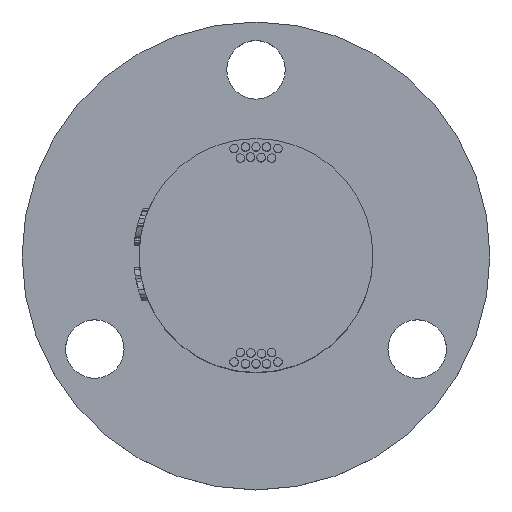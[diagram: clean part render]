
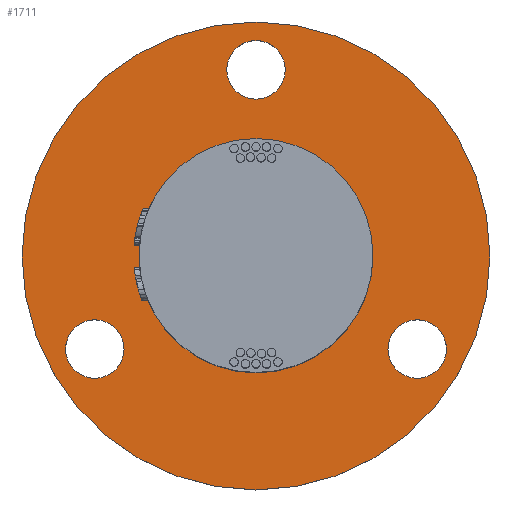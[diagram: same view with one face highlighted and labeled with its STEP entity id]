
A CAD part, top view. The second image highlights one B-rep face of the part: STEP entity #1711.
In plain terms, the highlighted planar face has unit normal (0, 0, 1).
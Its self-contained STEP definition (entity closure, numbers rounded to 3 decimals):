
#174=FACE_BOUND('',#3129,.T.);
#175=FACE_BOUND('',#3130,.T.);
#176=FACE_BOUND('',#3131,.T.);
#177=FACE_BOUND('',#3132,.T.);
#178=FACE_BOUND('',#3133,.T.);
#392=CIRCLE('',#11184,2.75);
#393=CIRCLE('',#11185,2.75);
#394=CIRCLE('',#11186,2.75);
#395=CIRCLE('',#11187,11.);
#396=CIRCLE('',#11188,22.);
#1711=ADVANCED_FACE('',(#174,#175,#176,#177,#178),#2059,.T.);
#2059=PLANE('',#11189);
#3129=EDGE_LOOP('',(#5193));
#3130=EDGE_LOOP('',(#5194));
#3131=EDGE_LOOP('',(#5195));
#3132=EDGE_LOOP('',(#5196));
#3133=EDGE_LOOP('',(#5197));
#5193=ORIENTED_EDGE('',*,*,#8950,.F.);
#5194=ORIENTED_EDGE('',*,*,#8951,.F.);
#5195=ORIENTED_EDGE('',*,*,#8952,.F.);
#5196=ORIENTED_EDGE('',*,*,#8953,.T.);
#5197=ORIENTED_EDGE('',*,*,#8954,.F.);
#7468=VERTEX_POINT('',#22231);
#7469=VERTEX_POINT('',#22233);
#7470=VERTEX_POINT('',#22235);
#7471=VERTEX_POINT('',#22237);
#7472=VERTEX_POINT('',#22239);
#8950=EDGE_CURVE('',#7468,#7468,#392,.T.);
#8951=EDGE_CURVE('',#7469,#7469,#393,.T.);
#8952=EDGE_CURVE('',#7470,#7470,#394,.T.);
#8953=EDGE_CURVE('',#7471,#7471,#395,.T.);
#8954=EDGE_CURVE('',#7472,#7472,#396,.T.);
#11184=AXIS2_PLACEMENT_3D('',#22230,#12409,#12410);
#11185=AXIS2_PLACEMENT_3D('',#22232,#12411,#12412);
#11186=AXIS2_PLACEMENT_3D('',#22234,#12413,#12414);
#11187=AXIS2_PLACEMENT_3D('',#22236,#12415,#12416);
#11188=AXIS2_PLACEMENT_3D('',#22238,#12417,#12418);
#11189=AXIS2_PLACEMENT_3D('',#22240,#12419,#12420);
#12409=DIRECTION('',(0.,0.,1.));
#12410=DIRECTION('',(1.,0.,0.));
#12411=DIRECTION('',(0.,0.,1.));
#12412=DIRECTION('',(1.,0.,0.));
#12413=DIRECTION('',(0.,0.,1.));
#12414=DIRECTION('',(1.,0.,0.));
#12415=DIRECTION('',(0.,0.,-1.));
#12416=DIRECTION('',(1.,0.,0.));
#12417=DIRECTION('',(0.,0.,-1.));
#12418=DIRECTION('',(1.,0.,0.));
#12419=DIRECTION('',(0.,0.,1.));
#12420=DIRECTION('',(1.,0.,0.));
#22230=CARTESIAN_POINT('',(0.,17.5,2.5));
#22231=CARTESIAN_POINT('',(2.75,17.5,2.5));
#22232=CARTESIAN_POINT('',(-15.155,-8.75,2.5));
#22233=CARTESIAN_POINT('',(-12.405,-8.75,2.5));
#22234=CARTESIAN_POINT('',(15.155,-8.75,2.5));
#22235=CARTESIAN_POINT('',(17.905,-8.75,2.5));
#22236=CARTESIAN_POINT('',(0.,0.,2.5));
#22237=CARTESIAN_POINT('',(11.,0.,2.5));
#22238=CARTESIAN_POINT('',(0.,0.,2.5));
#22239=CARTESIAN_POINT('',(22.,0.,2.5));
#22240=CARTESIAN_POINT('',(0.,0.,2.5));
